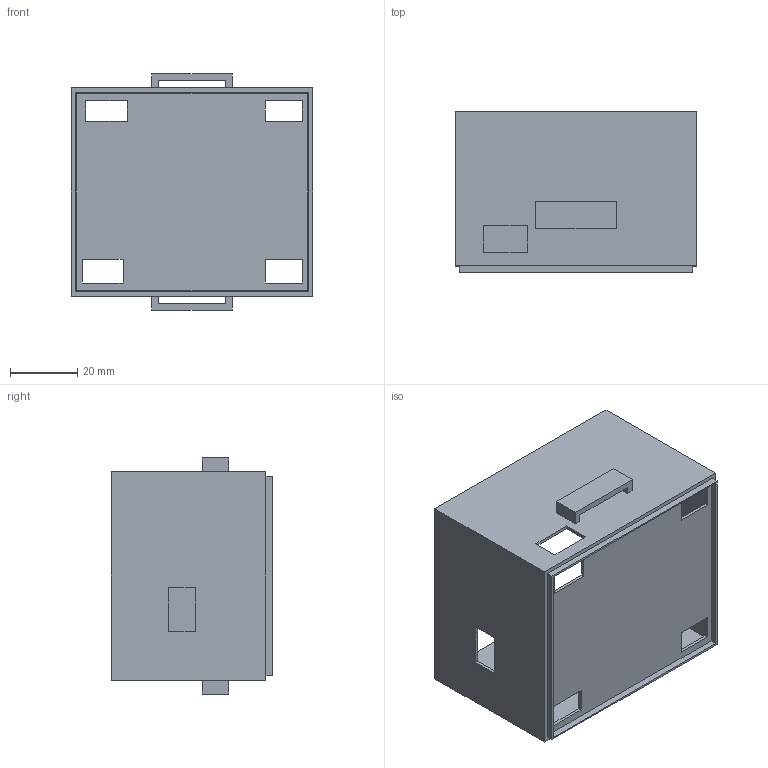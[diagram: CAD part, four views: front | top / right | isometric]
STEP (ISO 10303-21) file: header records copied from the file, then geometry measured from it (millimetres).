
FILE_DESCRIPTION (( 'STEP AP214' ), '1' );
FILE_NAME ('Tele_project_Part1.STEP', '2026-05-08T10:52:33', ( '' ), ( '' ), 'SwSTEP 2.0', 'SolidWorks 2022', '' );
FILE_SCHEMA (( 'AUTOMOTIVE_DESIGN' ));
Length unit declared in the file: centimetre
Products named in the file (1): Tele_project_Part1
Bounding box: 72 x 48 x 70.3 mm (x, y, z)
Volume: 16959.7 mm3; surface area: 34237.6 mm2
Topology: 1 solids, 1 shells, 61 faces, 168 edges, 112 vertices
Faces by surface type: plane 61
Entity records: 1968 total; most frequent: CARTESIAN_POINT 342, ORIENTED_EDGE 336, DIRECTION 292, EDGE_CURVE 168, VECTOR 168, LINE 168, VERTEX_POINT 112, EDGE_LOOP 80
